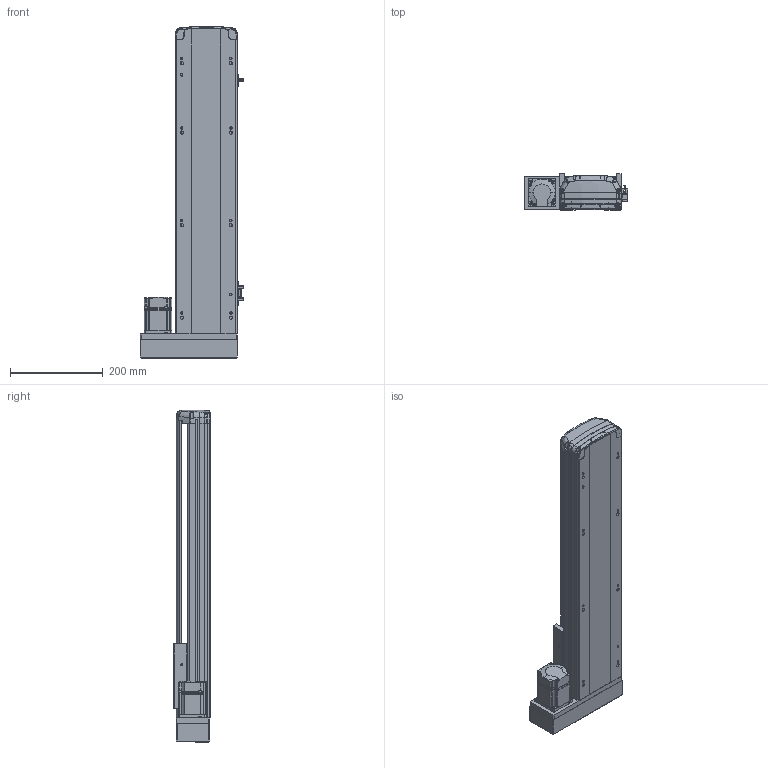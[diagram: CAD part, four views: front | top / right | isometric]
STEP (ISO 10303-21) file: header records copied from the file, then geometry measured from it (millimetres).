
FILE_DESCRIPTION (( 'STEP AP214' ), '1' );
FILE_NAME ('RTH14-XX-450-L-M20-C4.STEP', '2025-10-25T02:37:35', ( 'Microsoft' ), ( 'Microsoft' ), 'SwSTEP 2.0', 'SolidWorks 2018', '' );
FILE_SCHEMA (( 'AUTOMOTIVE_DESIGN' ));
Length unit declared in the file: millimetre
Products named in the file (10): N_RTH13-L-012感应片（外置）^RTH14-XX-XX-L-M20-C4; N_RTH14-R-004-SFSR16賑釱^RTH14-XX-XX-L-M20-C4; N_RTH13-L-018 裔赽^RTH14-XX-XX-L-M20-C4; RTH14-XX-450-L-M20-C4; N_RTH13-L-008-P20 萇儂啣酘蛌殏^RTH14-XX-XX-L-M20-C4; N_OMRON EE-SX672 传感器^RTH14-XX-XX-L-M20-C4; N_RTH14-GY-001P^RTH14-XX-XX-L-M20-C4; N_RTH14-M-011P菁釱^RTH14-XX-XX-L-M20-C4; N_MSMD022P1AA_200W^RTH14-XX-XX-L-M20-C4; N_RTH14-M-007P奻裔^RTH14-XX-XX-L-M20-C4
Assembly tree (11 placements, depth 2):
  RTH14-XX-450-L-M20-C4
    N_RTH14-M-011P菁釱^RTH14-XX-XX-L-M20-C4
    N_RTH14-M-007P奻裔^RTH14-XX-XX-L-M20-C4
    N_MSMD022P1AA_200W^RTH14-XX-XX-L-M20-C4
    N_RTH13-L-008-P20 萇儂啣酘蛌殏^RTH14-XX-XX-L-M20-C4
    N_RTH13-L-018 裔赽^RTH14-XX-XX-L-M20-C4
    N_RTH13-L-012感应片（外置）^RTH14-XX-XX-L-M20-C4
    N_OMRON EE-SX672 传感器^RTH14-XX-XX-L-M20-C4  x3
    N_RTH14-GY-001P^RTH14-XX-XX-L-M20-C4
    N_RTH14-R-004-SFSR16賑釱^RTH14-XX-XX-L-M20-C4
Bounding box: 224 x 78.03 x 717.37 mm (x, y, z)
Volume: 3392339.2 mm3; surface area: 799934.3 mm2
Topology: 11 solids, 11 shells, 1854 faces, 5177 edges, 3390 vertices
Faces by surface type: plane 987, cylinder 473, bspline 345, cone 45, torus 4
Entity records: 56431 total; most frequent: CARTESIAN_POINT 22863, ORIENTED_EDGE 7422, DIRECTION 5924, EDGE_CURVE 3711, VERTEX_POINT 2426, LINE 2140, VECTOR 2140, AXIS2_PLACEMENT_3D 1892
